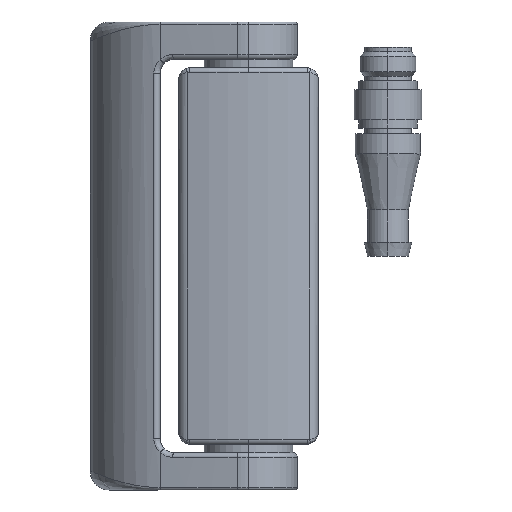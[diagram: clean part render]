
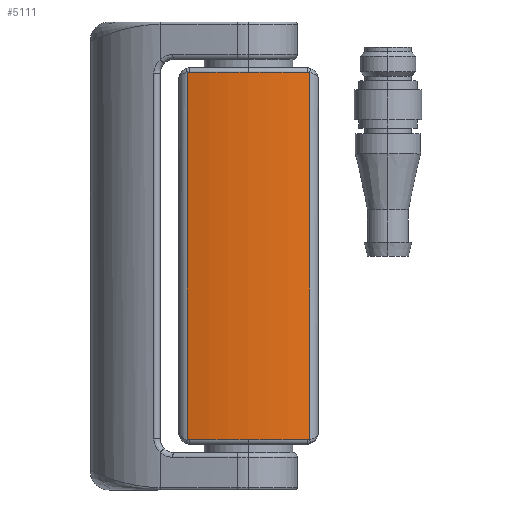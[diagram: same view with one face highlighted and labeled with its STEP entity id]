
A CAD part, top view. The second image highlights one B-rep face of the part: STEP entity #5111.
In plain terms, the highlighted cylindrical face has radius 50 mm (diameter 100 mm), a partial arc.
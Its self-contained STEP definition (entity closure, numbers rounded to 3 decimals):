
#139 = CARTESIAN_POINT ( 'NONE',  ( -13.158, 39.447, 20.738 ) ) ;
#226 = DIRECTION ( 'NONE',  ( 0., 1., 0. ) ) ;
#353 = CARTESIAN_POINT ( 'NONE',  ( 13.158, 40.5, 20.738 ) ) ;
#392 = VERTEX_POINT ( 'NONE', #1509 ) ;
#533 = CARTESIAN_POINT ( 'NONE',  ( 12.755, 39.5, 20.846 ) ) ;
#566 = CARTESIAN_POINT ( 'NONE',  ( 13.158, -39.447, 20.738 ) ) ;
#673 = CARTESIAN_POINT ( 'NONE',  ( 13.158, -39.447, 20.738 ) ) ;
#789 = CARTESIAN_POINT ( 'NONE',  ( -12.755, -39.5, 20.846 ) ) ;
#867 = EDGE_CURVE ( 'NONE', #4826, #1083, #4805, .T. ) ;
#924 = VERTEX_POINT ( 'NONE', #139 ) ;
#983 = CARTESIAN_POINT ( 'NONE',  ( 0., 40.5, -27.5 ) ) ;
#1002 = ORIENTED_EDGE ( 'NONE', *, *, #1914, .T. ) ;
#1060 = DIRECTION ( 'NONE',  ( 0., -1., 0. ) ) ;
#1064 = CARTESIAN_POINT ( 'NONE',  ( -12.755, -39.5, 20.846 ) ) ;
#1083 = VERTEX_POINT ( 'NONE', #1681 ) ;
#1199 = DIRECTION ( 'NONE',  ( 0., 1., 0. ) ) ;
#1234 = EDGE_CURVE ( 'NONE', #1083, #4574, #3950, .T. ) ;
#1393 = EDGE_CURVE ( 'NONE', #4574, #924, #2016, .T. ) ;
#1509 = CARTESIAN_POINT ( 'NONE',  ( -13.158, -39.447, 20.738 ) ) ;
#1545 = ORIENTED_EDGE ( 'NONE', *, *, #2741, .T. ) ;
#1681 = CARTESIAN_POINT ( 'NONE',  ( 0., 39.5, 22.5 ) ) ;
#1685 = CARTESIAN_POINT ( 'NONE',  ( -13.158, 40.5, 20.738 ) ) ;
#1711 = ORIENTED_EDGE ( 'NONE', *, *, #2538, .T. ) ;
#1786 = DIRECTION ( 'NONE',  ( 0., 1., 0. ) ) ;
#1802 = ORIENTED_EDGE ( 'NONE', *, *, #867, .T. ) ;
#1906 = AXIS2_PLACEMENT_3D ( 'NONE', #3115, #226, #3595 ) ;
#1907 = CARTESIAN_POINT ( 'NONE',  ( -13.026, 39.482, 20.774 ) ) ;
#1914 = EDGE_CURVE ( 'NONE', #924, #392, #6128, .T. ) ;
#1943 = CARTESIAN_POINT ( 'NONE',  ( 12.892, 39.5, 20.81 ) ) ;
#1998 = CARTESIAN_POINT ( 'NONE',  ( 13.158, 39.447, 20.738 ) ) ;
#2016 = B_SPLINE_CURVE_WITH_KNOTS ( 'NONE', 3,
 ( #2373, #3355, #1907, #5343 ),
 .UNSPECIFIED., .F., .F.,
 ( 4, 4 ),
 ( 0., 0. ),
 .UNSPECIFIED. ) ;
#2099 = B_SPLINE_CURVE_WITH_KNOTS ( 'NONE', 3,
 ( #5928, #5908, #3441, #566 ),
 .UNSPECIFIED., .F., .F.,
 ( 4, 4 ),
 ( 0., 0. ),
 .UNSPECIFIED. ) ;
#2120 = EDGE_CURVE ( 'NONE', #392, #3713, #2569, .T. ) ;
#2305 = CARTESIAN_POINT ( 'NONE',  ( 0., 39.5, -27.5 ) ) ;
#2318 = EDGE_CURVE ( 'NONE', #3714, #3821, #3467, .T. ) ;
#2333 = ORIENTED_EDGE ( 'NONE', *, *, #2318, .T. ) ;
#2373 = CARTESIAN_POINT ( 'NONE',  ( -12.755, 39.5, 20.846 ) ) ;
#2490 = CARTESIAN_POINT ( 'NONE',  ( -12.755, 39.5, 20.846 ) ) ;
#2497 = VECTOR ( 'NONE', #5117, 1000. ) ;
#2503 = CARTESIAN_POINT ( 'NONE',  ( -13.158, -39.447, 20.738 ) ) ;
#2538 = EDGE_CURVE ( 'NONE', #3821, #6174, #2099, .T. ) ;
#2569 = B_SPLINE_CURVE_WITH_KNOTS ( 'NONE', 3,
 ( #2503, #2991, #3975, #1064 ),
 .UNSPECIFIED., .F., .F.,
 ( 4, 4 ),
 ( 0., 0. ),
 .UNSPECIFIED. ) ;
#2724 = ORIENTED_EDGE ( 'NONE', *, *, #2120, .T. ) ;
#2741 = EDGE_CURVE ( 'NONE', #6174, #4569, #4404, .T. ) ;
#2800 = DIRECTION ( 'NONE',  ( 0., 0., 1. ) ) ;
#2957 = EDGE_CURVE ( 'NONE', #4569, #4826, #3903, .T. ) ;
#2991 = CARTESIAN_POINT ( 'NONE',  ( -13.026, -39.482, 20.774 ) ) ;
#3064 = EDGE_CURVE ( 'NONE', #3713, #3714, #4007, .T. ) ;
#3115 = CARTESIAN_POINT ( 'NONE',  ( 0., -39.5, -27.5 ) ) ;
#3355 = CARTESIAN_POINT ( 'NONE',  ( -12.892, 39.5, 20.81 ) ) ;
#3411 = CARTESIAN_POINT ( 'NONE',  ( 13.158, 39.447, 20.738 ) ) ;
#3441 = CARTESIAN_POINT ( 'NONE',  ( 13.026, -39.482, 20.774 ) ) ;
#3467 = CIRCLE ( 'NONE', #5687, 50. ) ;
#3498 = ORIENTED_EDGE ( 'NONE', *, *, #1393, .T. ) ;
#3595 = DIRECTION ( 'NONE',  ( 0., 0., 1. ) ) ;
#3713 = VERTEX_POINT ( 'NONE', #789 ) ;
#3714 = VERTEX_POINT ( 'NONE', #6190 ) ;
#3770 = CARTESIAN_POINT ( 'NONE',  ( 12.755, -39.5, 20.846 ) ) ;
#3821 = VERTEX_POINT ( 'NONE', #3770 ) ;
#3903 = B_SPLINE_CURVE_WITH_KNOTS ( 'NONE', 3,
 ( #3411, #5383, #1943, #533 ),
 .UNSPECIFIED., .F., .F.,
 ( 4, 4 ),
 ( 0., 0. ),
 .UNSPECIFIED. ) ;
#3950 = CIRCLE ( 'NONE', #5511, 50. ) ;
#3961 = ORIENTED_EDGE ( 'NONE', *, *, #2957, .T. ) ;
#3972 = CARTESIAN_POINT ( 'NONE',  ( 0., 39.5, -27.5 ) ) ;
#3975 = CARTESIAN_POINT ( 'NONE',  ( -12.892, -39.5, 20.81 ) ) ;
#4007 = CIRCLE ( 'NONE', #1906, 50. ) ;
#4118 = CARTESIAN_POINT ( 'NONE',  ( 0., -39.5, -27.5 ) ) ;
#4148 = CYLINDRICAL_SURFACE ( 'NONE', #4763, 50. ) ;
#4280 = EDGE_LOOP ( 'NONE', ( #1802, #6293, #3498, #1002, #2724, #5126, #2333, #1711, #1545, #3961 ) ) ;
#4398 = DIRECTION ( 'NONE',  ( 0., 0., -1. ) ) ;
#4404 = LINE ( 'NONE', #353, #5557 ) ;
#4470 = DIRECTION ( 'NONE',  ( 0., 0., 1. ) ) ;
#4569 = VERTEX_POINT ( 'NONE', #1998 ) ;
#4574 = VERTEX_POINT ( 'NONE', #2490 ) ;
#4612 = DIRECTION ( 'NONE',  ( 0., 0., 1. ) ) ;
#4763 = AXIS2_PLACEMENT_3D ( 'NONE', #983, #5876, #4398 ) ;
#4805 = CIRCLE ( 'NONE', #5754, 50. ) ;
#4826 = VERTEX_POINT ( 'NONE', #6247 ) ;
#5111 = ADVANCED_FACE ( 'NONE', ( #5776 ), #4148, .T. ) ;
#5117 = DIRECTION ( 'NONE',  ( 0., -1., 0. ) ) ;
#5126 = ORIENTED_EDGE ( 'NONE', *, *, #3064, .T. ) ;
#5343 = CARTESIAN_POINT ( 'NONE',  ( -13.158, 39.447, 20.738 ) ) ;
#5383 = CARTESIAN_POINT ( 'NONE',  ( 13.026, 39.482, 20.774 ) ) ;
#5511 = AXIS2_PLACEMENT_3D ( 'NONE', #2305, #5758, #2800 ) ;
#5557 = VECTOR ( 'NONE', #1786, 1000. ) ;
#5687 = AXIS2_PLACEMENT_3D ( 'NONE', #4118, #1199, #4612 ) ;
#5754 = AXIS2_PLACEMENT_3D ( 'NONE', #3972, #1060, #4470 ) ;
#5758 = DIRECTION ( 'NONE',  ( 0., -1., 0. ) ) ;
#5776 = FACE_OUTER_BOUND ( 'NONE', #4280, .T. ) ;
#5876 = DIRECTION ( 'NONE',  ( 0., -1., 0. ) ) ;
#5908 = CARTESIAN_POINT ( 'NONE',  ( 12.892, -39.5, 20.81 ) ) ;
#5928 = CARTESIAN_POINT ( 'NONE',  ( 12.755, -39.5, 20.846 ) ) ;
#6128 = LINE ( 'NONE', #1685, #2497 ) ;
#6174 = VERTEX_POINT ( 'NONE', #673 ) ;
#6190 = CARTESIAN_POINT ( 'NONE',  ( 0., -39.5, 22.5 ) ) ;
#6247 = CARTESIAN_POINT ( 'NONE',  ( 12.755, 39.5, 20.846 ) ) ;
#6293 = ORIENTED_EDGE ( 'NONE', *, *, #1234, .T. ) ;
